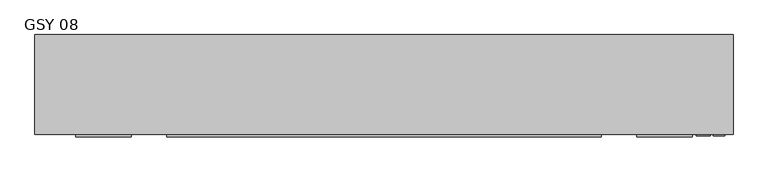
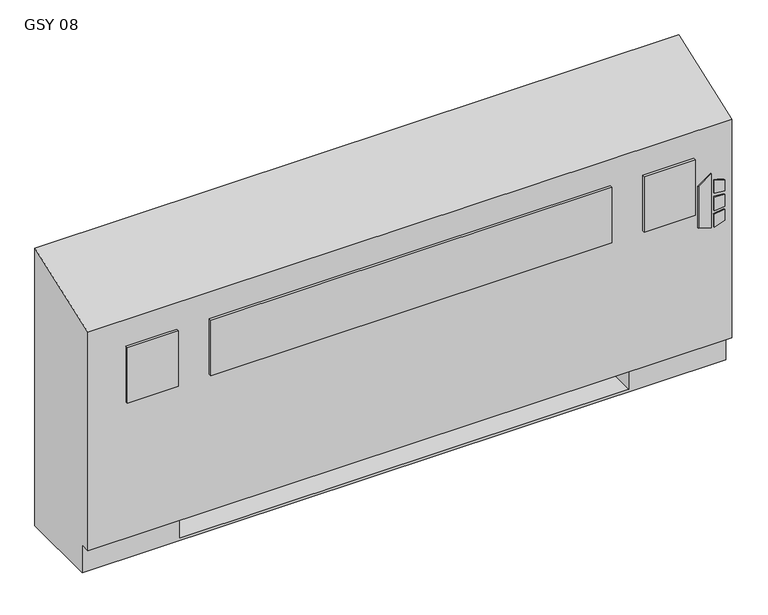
"""IFC4 building model written with IfcOpenShell, lengths in millimetres: proxy geometry, Vertical_Fan_Coil_Unit_-_GSY_-_IEC_-_2-Pipe_FS-FR_LH_2022 : GSY 08."""

from ifc_helpers import new_model, si_unit, point, frame, frame_2d, origin, place, context, project, spatial, polyline, circle_curve, trimmed, segment, composite_curve, outline, extrude, source, transform, mapped, element, save
from ifc_brep_helpers import plane_surface, revolved_surface, advanced_brep


def gsy_08_f1128186(model_context):
    return source(origin(), model_context, "Body", "SolidModel", [
        extrude(outline(polyline([(391.6086829, 868.4368862), (381.6606126, 900.6102728), (523.831537, 900.6102728), (500.8095309, 868.4368862), (391.6086829, 868.4368862)])), frame((0.0, 12.7, 0.0), z_axis=(0.0, 1.0, 0.0), x_axis=(0.0, 0.0, 1.0)), (0.0, 0.0, 1.0), 3.175),
        extrude(outline(polyline([(470.6079683, 907.3686058), (467.4055757, 933.45), (496.6344168, 933.45), (504.6988318, 907.3686058), (470.6079683, 907.3686058)])), frame((0.0, 12.7, 0.0), z_axis=(0.0, 1.0, 0.0), x_axis=(0.0, 0.0, 1.0)), (0.0, 0.0, 1.0), 3.175),
        extrude(outline(polyline([(418.7444414, 933.45), (415.0789404, 907.3686058), (381.6606126, 907.3686058), (390.2948498, 933.45), (418.7444414, 933.45)])), frame((0.0, 12.7, 0.0), z_axis=(0.0, 1.0, 0.0), x_axis=(0.0, 0.0, 1.0)), (0.0, 0.0, 1.0), 3.175),
        extrude(outline(polyline([(458.0596028, 933.45), (460.3414292, 907.3686058), (424.4038806, 907.3686058), (427.1451456, 933.45), (458.0596028, 933.45)])), frame((0.0, 12.7, 0.0), z_axis=(0.0, 1.0, 0.0), x_axis=(0.0, 0.0, 1.0)), (0.0, 0.0, 1.0), 3.175),
        extrude(outline(polyline([(-426.593, 9.525), (-553.593, 9.525), (-553.593, 15.875), (-426.593, 15.875), (-426.593, 9.525)])), frame((0.0, 0.0, 431.8), z_axis=(0.0, 0.0, 1.0), x_axis=(1.0, 0.0, 0.0)), (0.0, 0.0, 1.0), 146.05),
        extrude(outline(polyline([(650.875, 9.525), (-346.075, 9.525), (-346.075, 15.875), (650.875, 15.875), (650.875, 9.525)])), frame((0.0, 0.0, 431.8), z_axis=(0.0, 0.0, 1.0), x_axis=(1.0, 0.0, 0.0)), (0.0, 0.0, 1.0), 146.05),
        extrude(outline(polyline([(858.393, 9.525), (731.393, 9.525), (731.393, 15.875), (858.393, 15.875), (858.393, 9.525)])), frame((0.0, 0.0, 431.8), z_axis=(0.0, 0.0, 1.0), x_axis=(1.0, 0.0, 0.0)), (0.0, 0.0, 1.0), 146.05),
        extrude(outline(polyline([(711.2, 81.534), (711.2, 223.266), (831.85, 223.266), (831.85, 81.534), (711.2, 81.534)])), frame((0.0, 0.0, 327.025), z_axis=(0.0, 0.0, 1.0), x_axis=(1.0, 0.0, 0.0)), (0.0, 0.0, 1.0), 260.35),
        extrude(outline(composite_curve([segment(trimmed(circle_curve(frame_2d((80.645, 397.002)), 7.9375), [point((80.645, 404.9395))], [point((80.645, 389.0645))], False, "CARTESIAN"), True, "CONTINUOUS"), segment(trimmed(circle_curve(frame_2d((80.645, 397.002)), 7.9375), [point((80.645, 389.0645))], [point((80.645, 404.9395))], False, "CARTESIAN"), True, "CONTINUOUS")], self_intersect=False)), frame((-457.2, 0.0, 0.0), z_axis=(1.0, 0.0, 0.0), x_axis=(0.0, 1.0, 0.0)), (0.0, 0.0, 1.0), 50.8),
        extrude(outline(composite_curve([segment(trimmed(circle_curve(frame_2d((156.8958, 535.8892)), 7.9375), [point((156.8958, 543.8267))], [point((156.8958, 527.9517))], False, "CARTESIAN"), True, "CONTINUOUS"), segment(trimmed(circle_curve(frame_2d((156.8958, 535.8892)), 7.9375), [point((156.8958, 527.9517))], [point((156.8958, 543.8267))], False, "CARTESIAN"), True, "CONTINUOUS")], self_intersect=False)), frame((-457.2, 0.0, 0.0), z_axis=(1.0, 0.0, 0.0), x_axis=(0.0, 1.0, 0.0)), (0.0, 0.0, 1.0), 50.8),
        advanced_brep(
        [(-647.7, 244.475, 0.0), (952.5, 244.475, 0.0), (952.5, 41.275, 0.0), (-647.7, 41.275, 0.0), (-647.7, 244.475, 730.25), (952.5, 244.475, 730.25), (711.2, 244.475, 73.025), (939.8, 244.475, 73.025), (939.8, 244.475, 654.05), (711.2, 244.475, 654.05), (711.2, 244.475, 414.8650565), (739.775, 244.475, 414.8650565), (739.775, 244.475, 385.2349435), (711.2, 244.475, 385.2349435), (711.2, 244.475, 287.3375), (739.775, 244.475, 287.3375), (739.775, 244.475, 258.7625), (711.2, 244.475, 258.7625), (711.2, 244.475, 141.2875), (739.775, 244.475, 141.2875), (739.775, 244.475, 112.7125), (711.2, 244.475, 112.7125), (-406.4, 244.475, 654.05), (-635.0, 244.475, 654.05), (-635.0, 244.475, 73.025), (-406.4, 244.475, 73.025), (-406.4, 244.475, 112.7125), (-434.975, 244.475, 112.7125), (-434.975, 244.475, 141.2875), (-406.4, 244.475, 141.2875), (-406.4, 244.475, 258.7625), (-434.975, 244.475, 258.7625), (-434.975, 244.475, 287.3375), (-406.4, 244.475, 287.3375), (-406.4, 244.475, 385.2349435), (-434.975, 244.475, 385.2349435), (-434.975, 244.475, 414.8650565), (-406.4, 244.475, 414.8650565), (729.4626, 244.475, 127.0), (718.3374, 244.475, 127.0), (729.4626, 244.475, 400.05), (718.3374, 244.475, 400.05), (729.4626, 244.475, 273.05), (718.3374, 244.475, 273.05), (-413.5374, 244.475, 127.0), (-424.6626, 244.475, 127.0), (-413.5374, 244.475, 273.05), (-424.6626, 244.475, 273.05), (-413.5374, 244.475, 400.05), (-424.6626, 244.475, 400.05), (-647.7, 41.275, 73.025), (-647.7, 15.875, 73.025), (-647.7, 15.875, 647.7), (952.5, 15.875, 73.025), (952.5, 15.875, 647.7), (952.5, 41.275, 73.025), (-406.4, 41.275, 73.025), (-406.4, 225.425, 73.025), (711.2, 225.425, 73.025), (711.2, 41.275, 73.025), (711.2, 41.275, 6.35), (-406.4, 41.275, 6.35), (711.2, 41.275, 654.05), (939.8, 41.275, 654.05), (939.8, 41.275, 73.025), (711.2, 41.275, 73.025), (-406.4, 41.275, 654.05), (-406.4, 41.275, 73.025), (-635.0, 41.275, 73.025), (-635.0, 41.275, 654.05), (711.2, 225.425, 73.025), (711.2, 238.125, 112.7125), (711.2, 238.125, 141.2875), (711.2, 238.125, 258.7625), (711.2, 238.125, 287.3375), (711.2, 238.125, 385.2349435), (711.2, 238.125, 414.8650565), (-406.4, 225.425, 73.025), (-406.4, 238.125, 414.8650565), (-406.4, 238.125, 385.2349435), (-406.4, 238.125, 287.3375), (-406.4, 238.125, 258.7625), (-406.4, 238.125, 141.2875), (-406.4, 238.125, 112.7125), (-406.4, 225.425, 6.35), (711.2, 225.425, 6.35), (739.775, 238.125, 112.7125), (739.775, 238.125, 141.2875), (718.3374, 238.125, 127.0), (729.4626, 238.125, 127.0), (739.775, 238.125, 258.7625), (739.775, 238.125, 287.3375), (718.3374, 238.125, 273.05), (729.4626, 238.125, 273.05), (739.775, 238.125, 385.2349435), (739.775, 238.125, 414.8650565), (718.3374, 238.125, 400.05), (729.4626, 238.125, 400.05), (-434.975, 238.125, 141.2875), (-434.975, 238.125, 112.7125), (-424.6626, 238.125, 127.0), (-413.5374, 238.125, 127.0), (-434.975, 238.125, 287.3375), (-434.975, 238.125, 258.7625), (-424.6626, 238.125, 273.05), (-413.5374, 238.125, 273.05), (-434.975, 238.125, 414.8650565), (-434.975, 238.125, 385.2349435), (-424.6626, 238.125, 400.05), (-413.5374, 238.125, 400.05)],
        [
            (0, 1),
            (1, 2),
            (2, 3),
            (3, 0),
            (0, 4),
            (4, 5),
            (5, 1),
            (6, 7),
            (7, 8),
            (8, 9),
            (9, 10),
            (10, 11),
            (11, 12),
            (12, 13),
            (13, 14),
            (14, 15),
            (15, 16),
            (16, 17),
            (17, 18),
            (18, 19),
            (19, 20),
            (20, 21),
            (21, 6),
            (22, 23),
            (23, 24),
            (24, 25),
            (25, 26),
            (26, 27),
            (27, 28),
            (28, 29),
            (29, 30),
            (30, 31),
            (31, 32),
            (32, 33),
            (33, 34),
            (34, 35),
            (35, 36),
            (36, 37),
            (37, 22),
            (38, 39, circle_curve(frame((723.9, 244.475, 127.0), z_axis=(0.0, -1.0, 0.0), x_axis=(-1.0, 0.0, 0.0)), 5.5626)),
            (39, 38, circle_curve(frame((723.9, 244.475, 127.0), z_axis=(0.0, -1.0, 0.0), x_axis=(-1.0, 0.0, 0.0)), 5.5626)),
            (40, 41, circle_curve(frame((723.9, 244.475, 400.05), z_axis=(0.0, -1.0, 0.0), x_axis=(-1.0, 0.0, 0.0)), 5.5626)),
            (41, 40, circle_curve(frame((723.9, 244.475, 400.05), z_axis=(0.0, -1.0, 0.0), x_axis=(-1.0, 0.0, 0.0)), 5.5626)),
            (42, 43, circle_curve(frame((723.9, 244.475, 273.05), z_axis=(0.0, -1.0, 0.0), x_axis=(-1.0, 0.0, 0.0)), 5.5626)),
            (43, 42, circle_curve(frame((723.9, 244.475, 273.05), z_axis=(0.0, -1.0, 0.0), x_axis=(-1.0, 0.0, 0.0)), 5.5626)),
            (44, 45, circle_curve(frame((-419.1, 244.475, 127.0), z_axis=(0.0, -1.0, 0.0), x_axis=(-1.0, 0.0, 0.0)), 5.5626)),
            (45, 44, circle_curve(frame((-419.1, 244.475, 127.0), z_axis=(0.0, -1.0, 0.0), x_axis=(-1.0, 0.0, 0.0)), 5.5626)),
            (46, 47, circle_curve(frame((-419.1, 244.475, 273.05), z_axis=(0.0, -1.0, 0.0), x_axis=(-1.0, 0.0, 0.0)), 5.5626)),
            (47, 46, circle_curve(frame((-419.1, 244.475, 273.05), z_axis=(0.0, -1.0, 0.0), x_axis=(-1.0, 0.0, 0.0)), 5.5626)),
            (48, 49, circle_curve(frame((-419.1, 244.475, 400.05), z_axis=(0.0, -1.0, 0.0), x_axis=(-1.0, 0.0, 0.0)), 5.5626)),
            (49, 48, circle_curve(frame((-419.1, 244.475, 400.05), z_axis=(0.0, -1.0, 0.0), x_axis=(-1.0, 0.0, 0.0)), 5.5626)),
            (3, 50),
            (50, 51),
            (51, 52),
            (52, 4),
            (51, 53),
            (53, 54),
            (54, 52),
            (5, 54),
            (53, 55),
            (55, 2),
            (50, 56),
            (56, 57),
            (57, 58),
            (58, 59),
            (59, 55),
            (59, 60),
            (60, 61),
            (61, 56),
            (62, 63),
            (63, 64),
            (64, 65),
            (65, 62),
            (66, 67),
            (67, 68),
            (68, 69),
            (69, 66),
            (65, 70),
            (70, 6),
            (21, 71),
            (71, 72),
            (72, 18),
            (17, 73),
            (73, 74),
            (74, 14),
            (13, 75),
            (75, 76),
            (76, 10),
            (9, 62),
            (64, 7),
            (63, 8),
            (69, 23),
            (22, 66),
            (68, 24),
            (67, 77),
            (77, 25),
            (37, 78),
            (78, 79),
            (79, 34),
            (33, 80),
            (80, 81),
            (81, 30),
            (29, 82),
            (82, 83),
            (83, 26),
            (57, 84),
            (84, 85),
            (85, 58),
            (85, 60),
            (84, 61),
            (71, 86),
            (86, 87),
            (87, 72),
            (88, 89, circle_curve(frame((723.9, 238.125, 127.0), z_axis=(0.0, 1.0, 0.0), x_axis=(-1.0, 0.0, 0.0)), 5.5626)),
            (89, 88, circle_curve(frame((723.9, 238.125, 127.0), z_axis=(0.0, 1.0, 0.0), x_axis=(-1.0, 0.0, 0.0)), 5.5626)),
            (73, 90),
            (90, 91),
            (91, 74),
            (92, 93, circle_curve(frame((723.9, 238.125, 273.05), z_axis=(0.0, 1.0, 0.0), x_axis=(-1.0, 0.0, 0.0)), 5.5626)),
            (93, 92, circle_curve(frame((723.9, 238.125, 273.05), z_axis=(0.0, 1.0, 0.0), x_axis=(-1.0, 0.0, 0.0)), 5.5626)),
            (75, 94),
            (94, 95),
            (95, 76),
            (96, 97, circle_curve(frame((723.9, 238.125, 400.05), z_axis=(0.0, 1.0, 0.0), x_axis=(-1.0, 0.0, 0.0)), 5.5626)),
            (97, 96, circle_curve(frame((723.9, 238.125, 400.05), z_axis=(0.0, 1.0, 0.0), x_axis=(-1.0, 0.0, 0.0)), 5.5626)),
            (98, 99),
            (99, 83),
            (82, 98),
            (100, 101, circle_curve(frame((-419.1, 238.125, 127.0), z_axis=(0.0, 1.0, 0.0), x_axis=(-1.0, 0.0, 0.0)), 5.5626)),
            (101, 100, circle_curve(frame((-419.1, 238.125, 127.0), z_axis=(0.0, 1.0, 0.0), x_axis=(-1.0, 0.0, 0.0)), 5.5626)),
            (102, 103),
            (103, 81),
            (80, 102),
            (104, 105, circle_curve(frame((-419.1, 238.125, 273.05), z_axis=(0.0, 1.0, 0.0), x_axis=(-1.0, 0.0, 0.0)), 5.5626)),
            (105, 104, circle_curve(frame((-419.1, 238.125, 273.05), z_axis=(0.0, 1.0, 0.0), x_axis=(-1.0, 0.0, 0.0)), 5.5626)),
            (106, 107),
            (107, 79),
            (78, 106),
            (108, 109, circle_curve(frame((-419.1, 238.125, 400.05), z_axis=(0.0, 1.0, 0.0), x_axis=(-1.0, 0.0, 0.0)), 5.5626)),
            (109, 108, circle_curve(frame((-419.1, 238.125, 400.05), z_axis=(0.0, 1.0, 0.0), x_axis=(-1.0, 0.0, 0.0)), 5.5626)),
            (87, 19),
            (86, 20),
            (91, 15),
            (90, 16),
            (95, 11),
            (94, 12),
            (28, 98),
            (99, 27),
            (32, 102),
            (103, 31),
            (36, 106),
            (107, 35),
            (88, 39),
            (38, 89),
            (96, 41),
            (40, 97),
            (92, 43),
            (42, 93),
            (100, 45),
            (44, 101),
            (104, 47),
            (46, 105),
            (108, 49),
            (48, 109),
        ],
        [
            plane_surface(frame((-647.7, 244.475, 0.0), z_axis=(0.0, 0.0, -1.0), x_axis=(1.0, 0.0, 0.0))),
            plane_surface(frame((952.5, 244.475, 730.25), z_axis=(0.0, 1.0, 0.0), x_axis=(0.0, 0.0, -1.0))),
            plane_surface(frame((-647.7, 244.475, 730.25), z_axis=(-1.0, 0.0, 0.0), x_axis=(0.0, 0.0, -1.0))),
            plane_surface(frame((-647.7, 15.875, 730.25), z_axis=(0.0, -1.0, 0.0), x_axis=(0.0, 0.0, -1.0))),
            plane_surface(frame((952.5, 15.875, 730.25), z_axis=(1.0, 0.0, 0.0), x_axis=(0.0, 0.0, -1.0))),
            plane_surface(frame((-647.7, 15.875, 73.025), z_axis=(0.0, 0.0, -1.0), x_axis=(1.0, 0.0, 0.0))),
            plane_surface(frame((-647.7, 41.275, 73.025), z_axis=(0.0, -1.0, 0.0), x_axis=(1.0, 0.0, 0.0))),
            plane_surface(frame((711.2, 41.275, 654.05), z_axis=(0.0, 1.0, 0.0), x_axis=(0.0, 0.0, -1.0))),
            plane_surface(frame((711.2, 41.275, 654.05), z_axis=(1.0, 0.0, 0.0), x_axis=(0.0, 1.0, 0.0))),
            plane_surface(frame((711.2, 41.275, 73.025), z_axis=(0.0, 0.0, 1.0), x_axis=(0.0, 1.0, 0.0))),
            plane_surface(frame((939.8, 41.275, 73.025), z_axis=(-1.0, 0.0, 0.0), x_axis=(0.0, 1.0, 0.0))),
            plane_surface(frame((939.8, 41.275, 654.05), z_axis=(0.0, 0.0, -1.0), x_axis=(0.0, 1.0, 0.0))),
            plane_surface(frame((-406.4, 41.275, 654.05), z_axis=(0.0, 0.0, -1.0), x_axis=(0.0, 1.0, 0.0))),
            plane_surface(frame((-635.0, 41.275, 654.05), z_axis=(1.0, 0.0, 0.0), x_axis=(0.0, 1.0, 0.0))),
            plane_surface(frame((-635.0, 41.275, 73.025), z_axis=(0.0, 0.0, 1.0), x_axis=(0.0, 1.0, 0.0))),
            plane_surface(frame((-406.4, 41.275, 73.025), z_axis=(-1.0, 0.0, 0.0), x_axis=(0.0, 1.0, 0.0))),
            plane_surface(frame((711.2, 225.425, 73.025), z_axis=(0.0, -1.0, 0.0), x_axis=(0.0, 0.0, -1.0))),
            plane_surface(frame((711.2, 225.425, 73.025), z_axis=(-1.0, 0.0, 0.0), x_axis=(0.0, -1.0, 0.0))),
            plane_surface(frame((711.2, 225.425, 6.35), z_axis=(0.0, 0.0, 1.0), x_axis=(0.0, -1.0, 0.0))),
            plane_surface(frame((-406.4, 225.425, 6.35), z_axis=(1.0, 0.0, 0.0), x_axis=(0.0, -1.0, 0.0))),
            plane_surface(frame((739.775, 238.125, 141.2875), z_axis=(0.0, -1.0, 0.0), x_axis=(-1.0, 0.0, 0.0))),
            plane_surface(frame((711.2, 244.475, 141.2875), z_axis=(0.0, 0.0, 1.0), x_axis=(0.0, -1.0, 0.0))),
            plane_surface(frame((739.775, 244.475, 141.2875), z_axis=(1.0, 0.0, 0.0), x_axis=(0.0, -1.0, 0.0))),
            plane_surface(frame((739.775, 244.475, 112.7125), z_axis=(0.0, 0.0, -1.0), x_axis=(0.0, -1.0, 0.0))),
            plane_surface(frame((711.2, 244.475, 287.3375), z_axis=(0.0, 0.0, 1.0), x_axis=(0.0, -1.0, 0.0))),
            plane_surface(frame((739.775, 244.475, 287.3375), z_axis=(1.0, 0.0, 0.0), x_axis=(0.0, -1.0, 0.0))),
            plane_surface(frame((739.775, 244.475, 258.7625), z_axis=(0.0, 0.0, -1.0), x_axis=(0.0, -1.0, 0.0))),
            plane_surface(frame((711.2, 244.475, 414.8650565), z_axis=(0.0, 0.0, 1.0), x_axis=(0.0, -1.0, 0.0))),
            plane_surface(frame((739.775, 244.475, 414.8650565), z_axis=(1.0, 0.0, 0.0), x_axis=(0.0, -1.0, 0.0))),
            plane_surface(frame((739.775, 244.475, 385.2349435), z_axis=(0.0, 0.0, -1.0), x_axis=(0.0, -1.0, 0.0))),
            plane_surface(frame((-434.975, 244.475, 141.2875), z_axis=(0.0, 0.0, 1.0), x_axis=(0.0, -1.0, 0.0))),
            plane_surface(frame((-406.4, 244.475, 112.7125), z_axis=(0.0, 0.0, -1.0), x_axis=(0.0, -1.0, 0.0))),
            plane_surface(frame((-434.975, 244.475, 112.7125), z_axis=(-1.0, 0.0, 0.0), x_axis=(0.0, -1.0, 0.0))),
            plane_surface(frame((-434.975, 244.475, 287.3375), z_axis=(0.0, 0.0, 1.0), x_axis=(0.0, -1.0, 0.0))),
            plane_surface(frame((-406.4, 244.475, 258.7625), z_axis=(0.0, 0.0, -1.0), x_axis=(0.0, -1.0, 0.0))),
            plane_surface(frame((-434.975, 244.475, 258.7625), z_axis=(-1.0, 0.0, 0.0), x_axis=(0.0, -1.0, 0.0))),
            plane_surface(frame((-434.975, 244.475, 414.8650565), z_axis=(0.0, 0.0, 1.0), x_axis=(0.0, -1.0, 0.0))),
            plane_surface(frame((-406.4, 244.475, 385.2349435), z_axis=(0.0, 0.0, -1.0), x_axis=(0.0, -1.0, 0.0))),
            plane_surface(frame((-434.975, 244.475, 385.2349435), z_axis=(-1.0, 0.0, 0.0), x_axis=(0.0, -1.0, 0.0))),
            revolved_surface(polyline([(718.3374, 238.125, 127.0), (718.3374, 244.475, 127.0)]), (723.9, 244.475, 127.0), (0.0, -1.0, 0.0)),
            revolved_surface(polyline([(718.3374, 238.125, 400.05), (718.3374, 244.475, 400.05)]), (723.9, 244.475, 400.05), (0.0, -1.0, 0.0)),
            revolved_surface(polyline([(718.3374, 238.125, 273.05), (718.3374, 244.475, 273.05)]), (723.9, 244.475, 273.05), (0.0, -1.0, 0.0)),
            revolved_surface(polyline([(-424.6626, 238.125, 127.0), (-424.6626, 244.475, 127.0)]), (-419.1, 244.475, 127.0), (0.0, -1.0, 0.0)),
            revolved_surface(polyline([(-424.6626, 238.125, 273.05), (-424.6626, 244.475, 273.05)]), (-419.1, 244.475, 273.05), (0.0, -1.0, 0.0)),
            revolved_surface(polyline([(-424.6626, 238.125, 400.05), (-424.6626, 244.475, 400.05)]), (-419.1, 244.475, 400.05), (0.0, -1.0, 0.0)),
            plane_surface(frame((-647.7, 244.475, 730.25), z_axis=(0.0, -0.33964446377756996, 0.9405538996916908), x_axis=(1.0, 0.0, 0.0))),
        ],
        [
            (0, [[1, 2, 3, 4]]),
            (1, [[-1, 5, 6, 7], [8, 9, 10, 11, 12, 13, 14, 15, 16, 17, 18, 19, 20, 21, 22, 23], [24, 25, 26, 27, 28, 29, 30, 31, 32, 33, 34, 35, 36, 37, 38, 39], [40, 41], [42, 43], [44, 45], [46, 47], [48, 49], [50, 51]]),
            (2, [[-5, -4, 52, 53, 54, 55]]),
            (3, [[56, 57, 58, -54]]),
            (4, [[-7, 59, -57, 60, 61, -2]]),
            (5, [[-53, 62, 63, 64, 65, 66, -60, -56]]),
            (6, [[-3, -61, -66, 67, 68, 69, -62, -52]]),
            (7, [[70, 71, 72, 73]]),
            (7, [[74, 75, 76, 77]]),
            (8, [[-73, 78, 79, -23, 80, 81, 82, -19, 83, 84, 85, -15, 86, 87, 88, -11, 89]]),
            (9, [[-72, 90, -8, -79, -78]]),
            (10, [[-71, 91, -9, -90]]),
            (11, [[-70, -89, -10, -91]]),
            (12, [[-77, 92, -24, 93]]),
            (13, [[-76, 94, -25, -92]]),
            (14, [[-75, 95, 96, -26, -94]]),
            (15, [[-74, -93, -39, 97, 98, 99, -35, 100, 101, 102, -31, 103, 104, 105, -27, -96, -95]]),
            (16, [[-64, 106, 107, 108]]),
            (17, [[-108, 109, -67, -65]]),
            (18, [[-107, 110, -68, -109]]),
            (19, [[-106, -63, -69, -110]]),
            (20, [[111, 112, 113, -81], [114, 115]]),
            (20, [[116, 117, 118, -84], [119, 120]]),
            (20, [[121, 122, 123, -87], [124, 125]]),
            (20, [[126, 127, -104, 128], [129, 130]]),
            (20, [[131, 132, -101, 133], [134, 135]]),
            (20, [[136, 137, -98, 138], [139, 140]]),
            (21, [[-113, 141, -20, -82]]),
            (22, [[-112, 142, -21, -141]]),
            (23, [[-111, -80, -22, -142]]),
            (24, [[-118, 143, -16, -85]]),
            (25, [[-117, 144, -17, -143]]),
            (26, [[-116, -83, -18, -144]]),
            (27, [[-123, 145, -12, -88]]),
            (28, [[-122, 146, -13, -145]]),
            (29, [[-121, -86, -14, -146]]),
            (30, [[-128, -103, -30, 147]]),
            (31, [[-127, 148, -28, -105]]),
            (32, [[-126, -147, -29, -148]]),
            (33, [[-133, -100, -34, 149]]),
            (34, [[-132, 150, -32, -102]]),
            (35, [[-131, -149, -33, -150]]),
            (36, [[-138, -97, -38, 151]]),
            (37, [[-137, 152, -36, -99]]),
            (38, [[-136, -151, -37, -152]]),
            (39, [[153, -40, 154, -114]]),
            (39, [[-153, -115, -154, -41]]),
            (40, [[155, -42, 156, -124]]),
            (40, [[-155, -125, -156, -43]]),
            (41, [[157, -44, 158, -119]]),
            (41, [[-157, -120, -158, -45]]),
            (42, [[159, -46, 160, -129]]),
            (42, [[-159, -130, -160, -47]]),
            (43, [[161, -48, 162, -134]]),
            (43, [[-161, -135, -162, -49]]),
            (44, [[163, -50, 164, -139]]),
            (44, [[-163, -140, -164, -51]]),
            (45, [[-6, -55, -58, -59]]),
        ],
    ),
    ])


if __name__ == "__main__":
    model = new_model("IFC4")
    model_context = context("Model", 3, world=origin())
    ifc_project = project(units=[si_unit("LENGTHUNIT", "METRE", prefix="MILLI")], contexts=[model_context])
    site = spatial("IfcSite", under=ifc_project)
    building = spatial("IfcBuilding", under=site)
    placement = place(None, origin())
    gsy_08_shape = gsy_08_f1128186(model_context)
    element("IfcBuildingElementProxy", 1, Name="Vertical_Fan_Coil_Unit_-_GSY_-_IEC_-_2-Pipe_FS-FR_LH_2022 : GSY 08", ObjectType="Vertical_Fan_Coil_Unit_-_GSY_-_IEC_-_2-Pipe_FS-FR_LH_2022 : GSY 08", at=placement, inside=building, context=model_context, shape_type="MappedRepresentation", body=[
        mapped(gsy_08_shape, transform((0.0, 0.0, 0.0), x_axis=(1.0, 0.0, 0.0), y_axis=(0.0, 1.0, 0.0), z_axis=(0.0, 0.0, 1.0))),
    ])
    save(model, "model.ifc")
